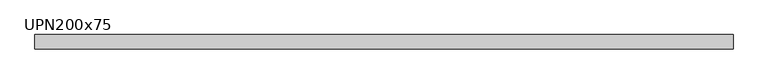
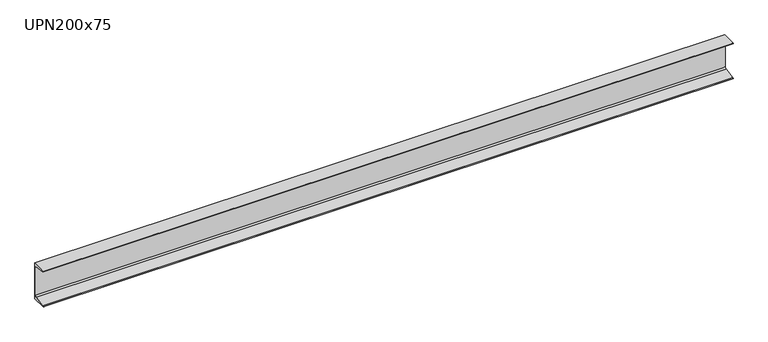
"""IFC4 building model written with IfcOpenShell, lengths in millimetres: beam geometry, M_MC Shapes : UPN200x75."""

from ifc_helpers import new_model, si_unit, point, frame, frame_2d, origin, place, context, project, spatial, polyline, circle_curve, trimmed, segment, composite_curve, outline, extrude, source, transform, mapped, element, save


def upn200x75_15f8b11e(model_context):
    return source(origin(), model_context, "Body", "SweptSolid", [
        extrude(outline(composite_curve([segment(polyline([(10.9, 100.0), (10.9, -100.0), (-64.1, -100.0), (-64.1, -99.0253247)]), True, "CONTINUOUS"), segment(trimmed(circle_curve(frame_2d((-60.15, -99.0253247)), 3.95), [point((-64.1, -99.0253247))], [point((-60.7993773, -95.1290689))], False, "CARTESIAN"), True, "CONTINUOUS"), segment(polyline([(-60.7993773, -95.1290689), (-0.2512455, -85.0376935)]), True, "CONTINUOUS"), segment(trimmed(circle_curve(frame_2d((-1.55, -77.2451819)), 7.9), [point((-0.2512455, -85.0376935))], [point((6.35, -77.2451819))], True, "CARTESIAN"), True, "CONTINUOUS"), segment(polyline([(6.35, -77.2451819), (6.35, 77.2451819)]), True, "CONTINUOUS"), segment(trimmed(circle_curve(frame_2d((-1.55, 77.2451819)), 7.9), [point((6.35, 77.2451819))], [point((-0.2512455, 85.0376935))], True, "CARTESIAN"), True, "CONTINUOUS"), segment(polyline([(-0.2512455, 85.0376935), (-60.7993773, 95.1290689)]), True, "CONTINUOUS"), segment(trimmed(circle_curve(frame_2d((-60.15, 99.0253247)), 3.95), [point((-60.7993773, 95.1290689))], [point((-64.1, 99.0253247))], False, "CARTESIAN"), True, "CONTINUOUS"), segment(polyline([(-64.1, 99.0253247), (-64.1, 100.0), (10.9, 100.0)]), True, "CONTINUOUS")], self_intersect=False)), frame((-1822.55, 0.0, 0.0), z_axis=(1.0, 0.0, 0.0), x_axis=(0.0, 1.0, 0.0)), (0.0, 0.0, 1.0), 3645.4),
    ])


if __name__ == "__main__":
    model = new_model("IFC4")
    model_context = context("Model", 3, world=origin())
    ifc_project = project(units=[si_unit("LENGTHUNIT", "METRE", prefix="MILLI")], contexts=[model_context])
    site = spatial("IfcSite", under=ifc_project)
    building = spatial("IfcBuilding", under=site)
    placement = place(None, origin())
    upn200x75_shape = upn200x75_15f8b11e(model_context)
    element("IfcBeam", 1, ObjectType="M_MC Shapes : UPN200x75", at=placement, inside=building, context=model_context, shape_type="MappedRepresentation", body=[
        mapped(upn200x75_shape, transform((0.0, 0.0, 0.0), x_axis=(1.0, 0.0, 0.0), y_axis=(0.0, 1.0, 0.0), z_axis=(0.0, 0.0, 1.0))),
    ])
    save(model, "model.ifc")
